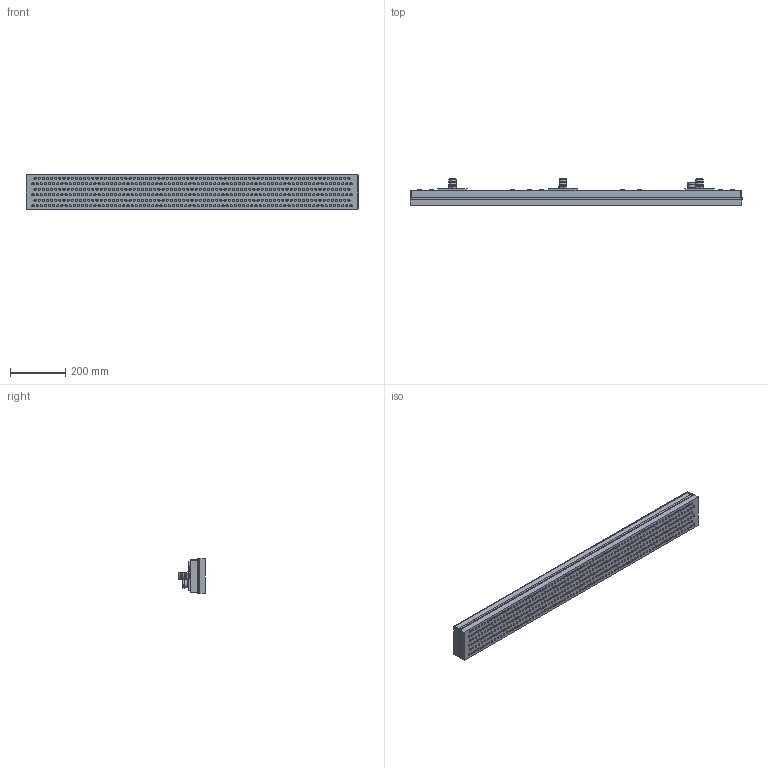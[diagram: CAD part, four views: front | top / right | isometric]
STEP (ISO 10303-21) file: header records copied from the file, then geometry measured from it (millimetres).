
FILE_DESCRIPTION (( 'STEP AP203' ), '1' );
FILE_NAME ('3-9-20456.STEP', '2014-03-18T06:18:05', ( '' ), ( '' ), 'SwSTEP 2.0', 'SolidWorks 2014', '' );
FILE_SCHEMA (( 'CONFIG_CONTROL_DESIGN' ));
Length unit declared in the file: millimetre
Products named in the file (1): 3-9-20456
Bounding box: 1206 x 97 x 126 mm (x, y, z)
Volume: 7844417.2 mm3; surface area: 783359.1 mm2
Topology: 1 solids, 1 shells, 1356 faces, 2400 edges, 1575 vertices
Faces by surface type: plane 706, cylinder 546, cone 57, bspline 26, torus 21
Full cylindrical faces by diameter (mm): 6.8 x12, 8 x465, 15 x6, 17 x5, 18.9 x3, 26.96 x3, 27 x1, 29 x1, 30 x1
Entity records: 31881 total; most frequent: CARTESIAN_POINT 6643, DIRECTION 5624, ORIENTED_EDGE 3702, AXIS2_PLACEMENT_3D 2548, EDGE_LOOP 2406, FACE_OUTER_BOUND 1856, EDGE_CURVE 1851, VERTEX_POINT 1547
